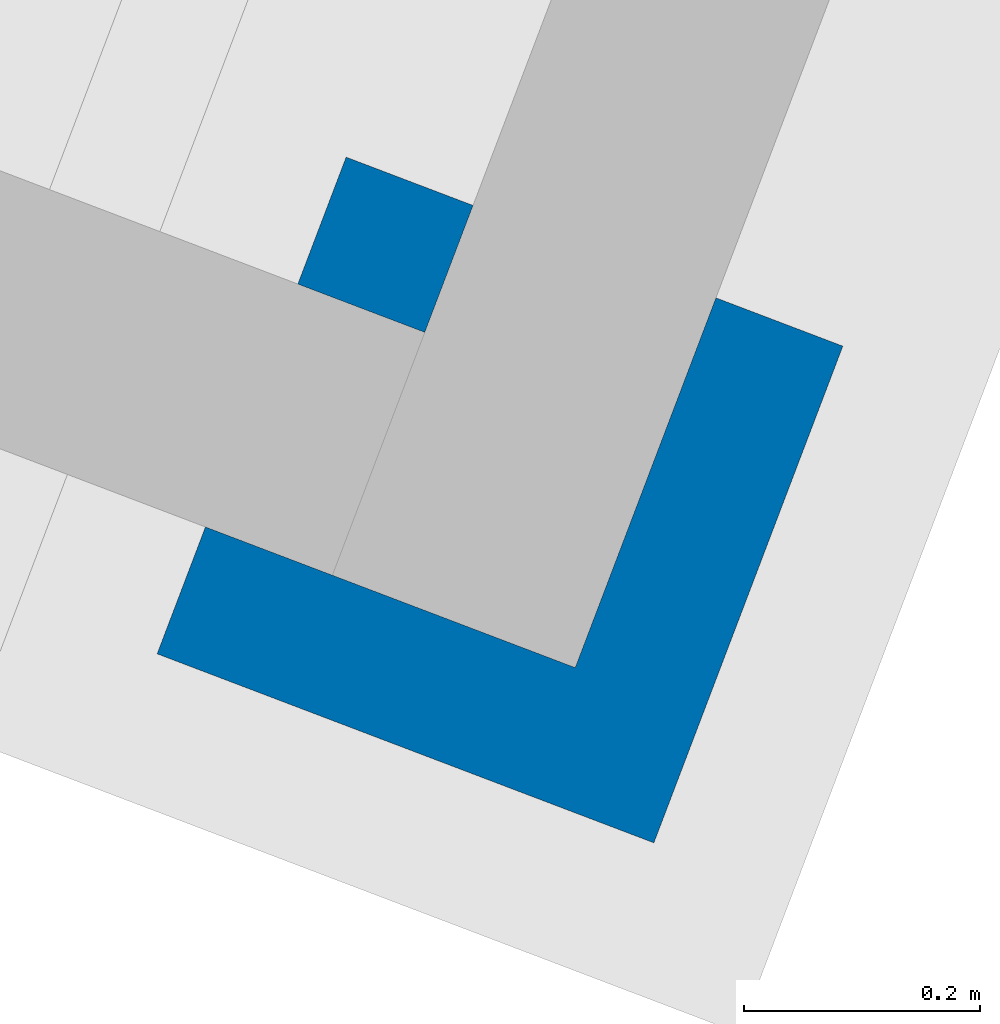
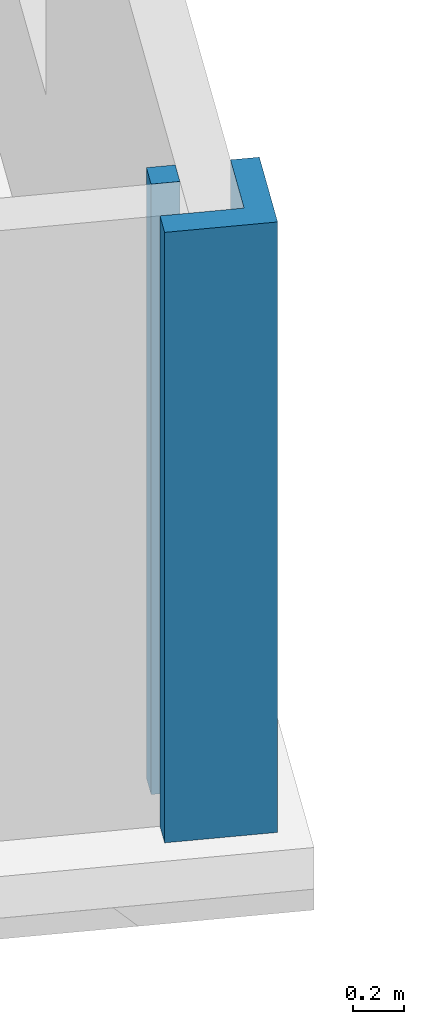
# One storey, part 9 of 11: 1 column.
"""IFC2X3 building model written with IfcOpenShell, lengths in millimetres."""

import ifcopenshell
import ifcopenshell.guid

model = None  # the IFC model being written
_history = None  # IfcOwnerHistory: only IFC2X3 demands one
_inside = {}  # id of a spatial element -> (the spatial element, [elements in it])
_under = {}  # id of a project, library or spatial element -> (it, [spatial elements below it])
_declared = {}  # id of a project -> (the project, [libraries it declares])
_typed = {}  # id of a type object -> (the type object, [elements of that type])
_made_of = {}  # id of a material, layer set ... -> (it, [elements and type objects made of it])


def new_model(schema):
    """Start an empty IFC model of exactly this schema.

    Asked for "IFC4X3", IfcOpenShell would pick the latest addendum, in which some entities
    have other attributes; the version numbers below select the first issue.
    IFC2X3 requires an IfcOwnerHistory on every rooted entity: one is made here for all.
    """
    global model, _history
    if schema == "IFC4X3":
        model = ifcopenshell.file(schema_version=(4, 3, 0, 0))
    else:
        model = ifcopenshell.file(schema=schema)
    _inside.clear()
    _under.clear()
    _declared.clear()
    _typed.clear()
    _made_of.clear()
    _history = None
    if model.schema == "IFC2X3":
        org = make("IfcOrganization", Name="unknown")
        user = make(
            "IfcPersonAndOrganization",
            ThePerson=make("IfcPerson", FamilyName="unknown"),
            TheOrganization=org,
        )
        app = make(
            "IfcApplication",
            ApplicationDeveloper=org,
            Version="unknown",
            ApplicationFullName="unknown",
            ApplicationIdentifier="unknown",
        )
        _history = make(
            "IfcOwnerHistory",
            OwningUser=user,
            OwningApplication=app,
            ChangeAction="ADDED",
            CreationDate=0,
        )
    return model


def make(cls, **values):
    """One entity of the class cls with the attributes given. An attribute that is None is left unset."""
    return model.create_entity(
        cls, **{name: value for name, value in values.items() if value is not None}
    )


def entity(cls, *values):
    """Any entity or typed value of the class cls, its attributes in the order of the schema. None: left unset."""
    e = model.create_entity(cls)
    for i, value in enumerate(values):
        if value is not None:
            e[i] = value
    return e


def rooted(cls, **values):
    """An entity with a GlobalId (a new one), such as an element, a storey or a relation."""
    return make(cls, GlobalId=ifcopenshell.guid.new(), OwnerHistory=_history, **values)


def si_unit(unit_type, name, prefix=None):
    """IfcSIUnit, for example si_unit("LENGTHUNIT", "METRE", prefix="MILLI")."""
    return make("IfcSIUnit", UnitType=unit_type, Prefix=prefix, Name=name)


def converted_unit(unit_type, name, factor, base, dimensions=None, offset=None):
    """IfcConversionBasedUnit, such as the inch: factor (a typed value) times the base unit."""
    return make(
        "IfcConversionBasedUnit"
        if offset is None
        else "IfcConversionBasedUnitWithOffset",
        ConversionOffset=offset,
        Dimensions=None
        if dimensions is None
        else entity("IfcDimensionalExponents", *dimensions),
        UnitType=unit_type,
        Name=name,
        ConversionFactor=make(
            "IfcMeasureWithUnit", ValueComponent=factor, UnitComponent=base
        ),
    )


def derived_unit(unit_type, elements):
    """IfcDerivedUnit: a product of units, each with its exponent."""
    return make(
        "IfcDerivedUnit",
        Elements=[
            make("IfcDerivedUnitElement", Unit=unit, Exponent=power)
            for unit, power in elements
        ],
        UnitType=unit_type,
    )


def assignment(units):
    """IfcUnitAssignment: the units of a project."""
    return None if units is None else make("IfcUnitAssignment", Units=units)


def point(xyz):
    """IfcCartesianPoint."""
    return None if xyz is None else make("IfcCartesianPoint", Coordinates=xyz)


def direction(xyz):
    """IfcDirection."""
    return None if xyz is None else make("IfcDirection", DirectionRatios=xyz)


def frame(location, z_axis=None, x_axis=None):
    """IfcAxis2Placement3D, a coordinate frame: its origin and axes. An axis left out is left unset."""
    return make(
        "IfcAxis2Placement3D",
        Location=point(location),
        Axis=direction(z_axis),
        RefDirection=direction(x_axis),
    )


def origin():
    """The frame at (0, 0, 0) with its axes left unset."""
    return frame((0.0, 0.0, 0.0))


def place(relative_to, where):
    """IfcLocalPlacement: puts the frame where relative to a parent placement (None: the world)."""
    return make(
        "IfcLocalPlacement", PlacementRelTo=relative_to, RelativePlacement=where
    )


def context(
    kind, dimensions, precision=None, world=None, true_north=None, identifier=None
):
    """IfcGeometricRepresentationContext, for example the 3D "Model" context."""
    return make(
        "IfcGeometricRepresentationContext",
        ContextIdentifier=identifier,
        ContextType=kind,
        CoordinateSpaceDimension=dimensions,
        Precision=precision,
        WorldCoordinateSystem=world,
        TrueNorth=true_north,
    )


def subcontext(parent, identifier, kind, view, scale=None):
    """IfcGeometricRepresentationSubContext, for example "Body" below "Model"."""
    return make(
        "IfcGeometricRepresentationSubContext",
        ContextIdentifier=identifier,
        ContextType=kind,
        ParentContext=parent,
        TargetScale=scale,
        TargetView=view,
    )


def project(units=None, contexts=None):
    """IfcProject with its units and contexts."""
    return rooted(
        "IfcProject",
        Name="project",
        RepresentationContexts=contexts,
        UnitsInContext=assignment(units),
    )


def spatial(cls, under=None, at=None, **own):
    """A site, building, storey or space (cls), placed at a placement, below another one or the project."""
    s = rooted(cls, ObjectPlacement=at, **own)
    if under is not None:
        _under.setdefault(under.id(), (under, []))[1].append(s)
    return s


def faces_of(points, faces, orient=None, outer=None):
    """IfcFace entities. A face is a list of loops; a loop is a list of indices into points, from 0.

    orient and outer hold one flag for each loop. By default every Orientation is true, the
    first loop of a face is its IfcFaceOuterBound and the others are IfcFaceBound.
    """
    made = []
    for i, loops in enumerate(faces):
        bounds = []
        for j, loop in enumerate(loops):
            is_outer = j == 0 if outer is None else outer[i][j]
            bounds.append(
                make(
                    "IfcFaceOuterBound" if is_outer else "IfcFaceBound",
                    Bound=make("IfcPolyLoop", Polygon=[points[k] for k in loop]),
                    Orientation=True if orient is None else orient[i][j],
                )
            )
        made.append(make("IfcFace", Bounds=bounds))
    return made


def faceted_brep(points, faces, orient=None, outer=None, voids=None):
    """IfcFacetedBrep: a solid bounded by flat faces; with voids (closed shells), ...WithVoids."""
    shared = [point(p) for p in points]
    hull = make("IfcClosedShell", CfsFaces=faces_of(shared, faces, orient, outer))
    if voids is None:
        return make("IfcFacetedBrep", Outer=hull)
    return make(
        "IfcFacetedBrepWithVoids",
        Outer=hull,
        Voids=[
            make(cls, CfsFaces=faces_of(shared, fs, o, b)) for cls, fs, o, b in voids
        ],
    )


def shape(context_of_items, identifier, shape_type, items):
    """IfcShapeRepresentation: the items that make up one representation, for example the "Body"."""
    return make(
        "IfcShapeRepresentation",
        ContextOfItems=context_of_items,
        RepresentationIdentifier=identifier,
        RepresentationType=shape_type,
        Items=items,
    )


def source(mapping_origin, context_of_items, identifier, shape_type, items):
    """IfcRepresentationMap: a shape defined once, which mapped items show again and again."""
    return make(
        "IfcRepresentationMap",
        MappingOrigin=mapping_origin,
        MappedRepresentation=shape(context_of_items, identifier, shape_type, items),
    )


def transform(
    local_origin,
    x_axis=None,
    y_axis=None,
    z_axis=None,
    scale=None,
    scale2=None,
    scale3=None,
    uniform=True,
):
    """IfcCartesianTransformationOperator3D, or its non-uniform kind. x_axis, y_axis, z_axis: its Axis1, 2, 3."""
    if uniform:
        return make(
            "IfcCartesianTransformationOperator3D",
            Axis1=direction(x_axis),
            Axis2=direction(y_axis),
            LocalOrigin=point(local_origin),
            Scale=scale,
            Axis3=direction(z_axis),
        )
    return make(
        "IfcCartesianTransformationOperator3DnonUniform",
        Axis1=direction(x_axis),
        Axis2=direction(y_axis),
        LocalOrigin=point(local_origin),
        Scale=scale,
        Axis3=direction(z_axis),
        Scale2=scale2,
        Scale3=scale3,
    )


def mapped(mapping_source, mapping_target):
    """IfcMappedItem: shows the shape of a source again, moved by a transform."""
    return make(
        "IfcMappedItem", MappingSource=mapping_source, MappingTarget=mapping_target
    )


def material(Name=None, Category=None):
    """IfcMaterial."""
    return make("IfcMaterial", Name=Name, Category=Category)


def made_of(thing, what):
    """Note that an element or type object is made of a material, layer set ...; save() writes the relation."""
    if what is not None:
        _made_of.setdefault(what.id(), (what, []))[1].append(thing)
    return thing


def type_object(cls, material=None, **own):
    """A type object (cls), such as IfcWallType, which elements share."""
    return made_of(rooted(cls, **own), material)


def type_shapes(of_type, sources):
    """Give a type object the sources (RepresentationMaps) that its elements show as mapped items."""
    of_type.RepresentationMaps = sources


def element(
    cls,
    number,
    at=None,
    inside=None,
    cuts=None,
    type_object=None,
    material=None,
    context=None,
    identifier="Body",
    shape_type=None,
    held_by="IfcProductDefinitionShape",
    body=None,
    shapes=None,
    **own,
):
    """One element of the class cls, such as IfcWall. Its Tag is "e" and its number.

    at: its placement. inside: the storey or other place that contains it. cuts: it is an
    opening in that element (IfcRelVoidsElement). A single representation is given by context,
    identifier, shape_type and body (its items); several are given by shapes. held_by: the class
    of the entity that holds the representations. save() writes the other relations.
    """
    e = rooted(cls, Tag="e%d" % number, ObjectPlacement=at, **own)
    if body is not None:
        shapes = [shape(context, identifier, shape_type, body)]
    if shapes is not None:
        e.Representation = make(held_by, Representations=shapes)
    if inside is not None:
        _inside.setdefault(inside.id(), (inside, []))[1].append(e)
    if cuts is not None:
        rooted(
            "IfcRelVoidsElement", RelatingBuildingElement=cuts, RelatedOpeningElement=e
        )
    if type_object is not None:
        _typed.setdefault(type_object.id(), (type_object, []))[1].append(e)
    return made_of(e, material)


def aggregate(whole, parts):
    """IfcRelAggregates: a whole, such as a stair, and the parts it consists of."""
    return rooted("IfcRelAggregates", RelatingObject=whole, RelatedObjects=parts)


def save(model, path):
    """Write the relations noted so far, then the file.

    IfcRelAggregates (storeys below a building ...), IfcRelContainedInSpatialStructure (elements
    in a storey), IfcRelDefinesByType, IfcRelAssociatesMaterial and IfcRelDeclares: one each for
    every whole, place, type object, material and project.
    """
    for whole, parts in _under.values():
        aggregate(whole, parts)
    for where, things in _inside.values():
        rooted(
            "IfcRelContainedInSpatialStructure",
            RelatedElements=things,
            RelatingStructure=where,
        )
    for kind, things in _typed.values():
        rooted("IfcRelDefinesByType", RelatedObjects=things, RelatingType=kind)
    for what, things in _made_of.values():
        rooted("IfcRelAssociatesMaterial", RelatedObjects=things, RelatingMaterial=what)
    for by, libraries in _declared.values():
        rooted("IfcRelDeclares", RelatingContext=by, RelatedDefinitions=libraries)
    model.write(path)


model = new_model("IFC2X3")

# Units and contexts
model_context = context("Model", 3, precision=0.01, world=origin(), true_north=direction((6.123233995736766e-17, 1.0)))
body_context = subcontext(model_context, "Body", "Model", "MODEL_VIEW")
ifc_project = project(units=[si_unit("LENGTHUNIT", "METRE", prefix="MILLI"), converted_unit("PLANEANGLEUNIT", "DEGREE", entity("IfcPlaneAngleMeasure", 0.017453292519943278), si_unit("PLANEANGLEUNIT", "RADIAN"), dimensions=[0, 0, 0, 0, 0, 0, 0]), si_unit("AREAUNIT", "SQUARE_METRE"), derived_unit("THERMALTRANSMITTANCEUNIT", [(si_unit("MASSUNIT", "GRAM", prefix="KILO"), 1), (si_unit("THERMODYNAMICTEMPERATUREUNIT", "KELVIN"), -1), (si_unit("TIMEUNIT", "SECOND"), -3)])], contexts=[model_context])

# Site, building, storey
site_placement = place(None, frame((-72937.88054949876, 11621.45624098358, 0.0), z_axis=(0.0, 0.0, 1.0), x_axis=(0.9346418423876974, -0.35559053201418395, 0.0)))
site = spatial("IfcSite", under=ifc_project, at=site_placement, Name="Default", CompositionType="ELEMENT")
building_placement = place(site_placement, origin())
building = spatial("IfcBuilding", under=site, at=building_placement, CompositionType="ELEMENT")
storey_placement = place(building_placement, frame((0.0, 0.0, -3160.0)))
storey = spatial("IfcBuildingStorey", under=building, at=storey_placement, Name="-1 kelder", CompositionType="ELEMENT", Elevation=-3160.0)

# Column
ifc_material = material(Name="beton_gewapend_ihw")
column_type = type_object("IfcColumnType", Name="450x450mm", PredefinedType="COLUMN", material=ifc_material)
shared_shape = source(origin(), body_context, "Body", "Brep", [
    faceted_brep([(52615.0, 15225.0, -3160.0), (52730.0, 15225.0, -3160.0), (52730.0, 15110.0, -3160.0), (52615.0, 15110.0, -3160.0), (52615.0, 15110.0, -230.0), (52615.0, 15225.0, -230.0), (52730.0, 15225.0, -230.0), (52730.0, 15110.0, -230.0)], [[[0, 1, 2, 3]], [[0, 3, 4, 5]], [[2, 1, 6, 7]], [[3, 2, 7, 4]], [[1, 0, 5, 6]], [[5, 4, 7, 6]]]),
    faceted_brep([(53065.0, 15225.0, -3160.0), (52950.0, 15225.0, -3160.0), (52950.0, 15225.0, -430.0), (52950.0, 15225.0, -230.0), (53065.0, 15225.0, -230.0), (53065.0, 15225.0, -430.0), (52615.0, 14775.0, -3160.0), (53065.0, 14775.0, -3160.0), (53065.0, 14775.0, -430.0), (53065.0, 14775.0, -230.0), (52615.0, 14775.0, -230.0), (52615.0, 14775.0, -430.0), (52950.0, 14890.0, -3160.0), (52950.0, 14890.0, -230.0), (52730.0, 14890.0, -3160.0), (52615.0, 14890.0, -3160.0), (52615.0, 14890.0, -430.0), (52615.0, 14890.0, -230.0), (52730.0, 14890.0, -230.0)], [[[0, 1, 2, 3, 4, 5]], [[6, 7, 8, 9, 10, 11]], [[7, 0, 5, 4, 9, 8]], [[1, 12, 13, 3, 2]], [[12, 14, 15, 16, 17, 18, 13]], [[0, 7, 6, 15, 14, 12, 1]], [[15, 6, 11, 10, 17, 16]], [[4, 3, 13, 18, 17, 10, 9]]]),
])
type_shapes(column_type, [shared_shape])
column_placement = place(storey_placement, frame((0.0, 0.0, 3160.0)))
element("IfcColumn", 1, at=column_placement, inside=storey, type_object=column_type, material=ifc_material, Name="28.11_SCO_BetonKolomRechthoek:450x450mm", ObjectType="28.11_SCO_BetonKolomRechthoek:450x450mm", context=body_context, shape_type="MappedRepresentation", body=[
    mapped(shared_shape, transform((0.0, 0.0, 0.0), scale=1.0)),
])

save(model, "model.ifc")
